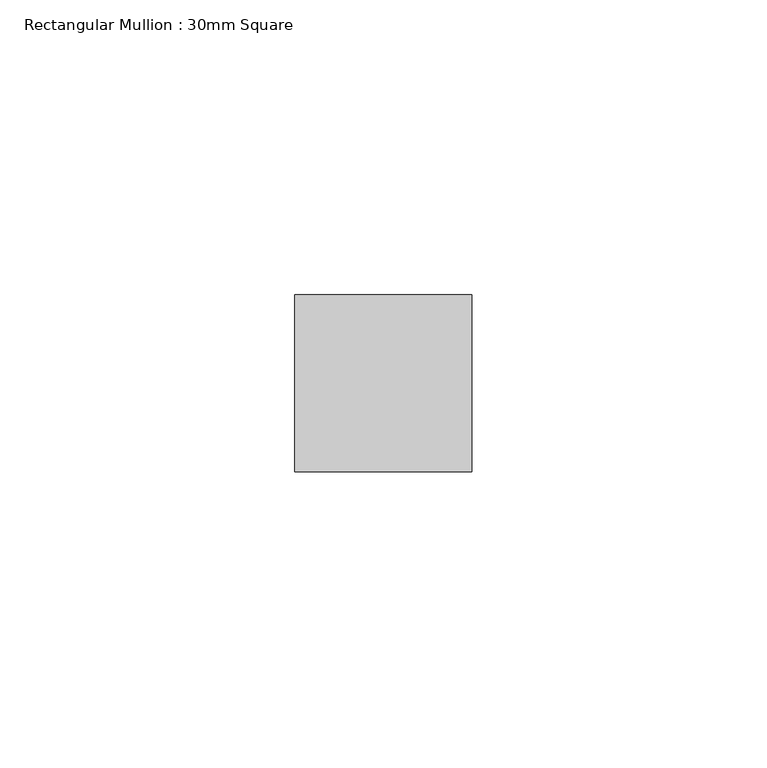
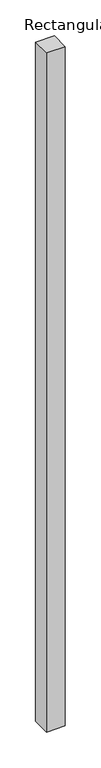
"""IFC4 building model written with IfcOpenShell, lengths in millimetres: member geometry, Rectangular Mullion : 30mm Square."""

import ifcopenshell
import ifcopenshell.guid

model = None  # the IFC model being written
_history = None  # IfcOwnerHistory: only IFC2X3 demands one
_inside = {}  # id of a spatial element -> (the spatial element, [elements in it])
_under = {}  # id of a project, library or spatial element -> (it, [spatial elements below it])
_declared = {}  # id of a project -> (the project, [libraries it declares])
_typed = {}  # id of a type object -> (the type object, [elements of that type])
_made_of = {}  # id of a material, layer set ... -> (it, [elements and type objects made of it])


def new_model(schema):
    """Start an empty IFC model of exactly this schema.

    Asked for "IFC4X3", IfcOpenShell would pick the latest addendum, in which some entities
    have other attributes; the version numbers below select the first issue.
    IFC2X3 requires an IfcOwnerHistory on every rooted entity: one is made here for all.
    """
    global model, _history
    if schema == "IFC4X3":
        model = ifcopenshell.file(schema_version=(4, 3, 0, 0))
    else:
        model = ifcopenshell.file(schema=schema)
    _inside.clear()
    _under.clear()
    _declared.clear()
    _typed.clear()
    _made_of.clear()
    _history = None
    if model.schema == "IFC2X3":
        org = make("IfcOrganization", Name="unknown")
        user = make(
            "IfcPersonAndOrganization",
            ThePerson=make("IfcPerson", FamilyName="unknown"),
            TheOrganization=org,
        )
        app = make(
            "IfcApplication",
            ApplicationDeveloper=org,
            Version="unknown",
            ApplicationFullName="unknown",
            ApplicationIdentifier="unknown",
        )
        _history = make(
            "IfcOwnerHistory",
            OwningUser=user,
            OwningApplication=app,
            ChangeAction="ADDED",
            CreationDate=0,
        )
    return model


def make(cls, **values):
    """One entity of the class cls with the attributes given. An attribute that is None is left unset."""
    return model.create_entity(
        cls, **{name: value for name, value in values.items() if value is not None}
    )


def rooted(cls, **values):
    """An entity with a GlobalId (a new one), such as an element, a storey or a relation."""
    return make(cls, GlobalId=ifcopenshell.guid.new(), OwnerHistory=_history, **values)


def si_unit(unit_type, name, prefix=None):
    """IfcSIUnit, for example si_unit("LENGTHUNIT", "METRE", prefix="MILLI")."""
    return make("IfcSIUnit", UnitType=unit_type, Prefix=prefix, Name=name)


def assignment(units):
    """IfcUnitAssignment: the units of a project."""
    return None if units is None else make("IfcUnitAssignment", Units=units)


def point(xyz):
    """IfcCartesianPoint."""
    return None if xyz is None else make("IfcCartesianPoint", Coordinates=xyz)


def direction(xyz):
    """IfcDirection."""
    return None if xyz is None else make("IfcDirection", DirectionRatios=xyz)


def frame(location, z_axis=None, x_axis=None):
    """IfcAxis2Placement3D, a coordinate frame: its origin and axes. An axis left out is left unset."""
    return make(
        "IfcAxis2Placement3D",
        Location=point(location),
        Axis=direction(z_axis),
        RefDirection=direction(x_axis),
    )


def origin():
    """The frame at (0, 0, 0) with its axes left unset."""
    return frame((0.0, 0.0, 0.0))


def place(relative_to, where):
    """IfcLocalPlacement: puts the frame where relative to a parent placement (None: the world)."""
    return make(
        "IfcLocalPlacement", PlacementRelTo=relative_to, RelativePlacement=where
    )


def context(
    kind, dimensions, precision=None, world=None, true_north=None, identifier=None
):
    """IfcGeometricRepresentationContext, for example the 3D "Model" context."""
    return make(
        "IfcGeometricRepresentationContext",
        ContextIdentifier=identifier,
        ContextType=kind,
        CoordinateSpaceDimension=dimensions,
        Precision=precision,
        WorldCoordinateSystem=world,
        TrueNorth=true_north,
    )


def project(units=None, contexts=None):
    """IfcProject with its units and contexts."""
    return rooted(
        "IfcProject",
        Name="project",
        RepresentationContexts=contexts,
        UnitsInContext=assignment(units),
    )


def spatial(cls, under=None, at=None, **own):
    """A site, building, storey or space (cls), placed at a placement, below another one or the project."""
    s = rooted(cls, ObjectPlacement=at, **own)
    if under is not None:
        _under.setdefault(under.id(), (under, []))[1].append(s)
    return s


def polyline(points):
    """IfcPolyline through the points."""
    return make("IfcPolyline", Points=[point(p) for p in points])


def outline(outer, holes=None, kind="AREA"):
    """IfcArbitraryClosedProfileDef: a profile drawn as a closed curve; with holes, ...WithVoids."""
    if holes is None:
        return make("IfcArbitraryClosedProfileDef", ProfileType=kind, OuterCurve=outer)
    return make(
        "IfcArbitraryProfileDefWithVoids",
        ProfileType=kind,
        OuterCurve=outer,
        InnerCurves=holes,
    )


def extrude(swept, where, along, depth):
    """IfcExtrudedAreaSolid: the profile swept, set in the frame where, extruded along a direction by depth."""
    return make(
        "IfcExtrudedAreaSolid",
        SweptArea=swept,
        Position=where,
        ExtrudedDirection=direction(along),
        Depth=depth,
    )


def shape(context_of_items, identifier, shape_type, items):
    """IfcShapeRepresentation: the items that make up one representation, for example the "Body"."""
    return make(
        "IfcShapeRepresentation",
        ContextOfItems=context_of_items,
        RepresentationIdentifier=identifier,
        RepresentationType=shape_type,
        Items=items,
    )


def source(mapping_origin, context_of_items, identifier, shape_type, items):
    """IfcRepresentationMap: a shape defined once, which mapped items show again and again."""
    return make(
        "IfcRepresentationMap",
        MappingOrigin=mapping_origin,
        MappedRepresentation=shape(context_of_items, identifier, shape_type, items),
    )


def transform(
    local_origin,
    x_axis=None,
    y_axis=None,
    z_axis=None,
    scale=None,
    scale2=None,
    scale3=None,
    uniform=True,
):
    """IfcCartesianTransformationOperator3D, or its non-uniform kind. x_axis, y_axis, z_axis: its Axis1, 2, 3."""
    if uniform:
        return make(
            "IfcCartesianTransformationOperator3D",
            Axis1=direction(x_axis),
            Axis2=direction(y_axis),
            LocalOrigin=point(local_origin),
            Scale=scale,
            Axis3=direction(z_axis),
        )
    return make(
        "IfcCartesianTransformationOperator3DnonUniform",
        Axis1=direction(x_axis),
        Axis2=direction(y_axis),
        LocalOrigin=point(local_origin),
        Scale=scale,
        Axis3=direction(z_axis),
        Scale2=scale2,
        Scale3=scale3,
    )


def mapped(mapping_source, mapping_target):
    """IfcMappedItem: shows the shape of a source again, moved by a transform."""
    return make(
        "IfcMappedItem", MappingSource=mapping_source, MappingTarget=mapping_target
    )


def made_of(thing, what):
    """Note that an element or type object is made of a material, layer set ...; save() writes the relation."""
    if what is not None:
        _made_of.setdefault(what.id(), (what, []))[1].append(thing)
    return thing


def element(
    cls,
    number,
    at=None,
    inside=None,
    cuts=None,
    type_object=None,
    material=None,
    context=None,
    identifier="Body",
    shape_type=None,
    held_by="IfcProductDefinitionShape",
    body=None,
    shapes=None,
    **own,
):
    """One element of the class cls, such as IfcWall. Its Tag is "e" and its number.

    at: its placement. inside: the storey or other place that contains it. cuts: it is an
    opening in that element (IfcRelVoidsElement). A single representation is given by context,
    identifier, shape_type and body (its items); several are given by shapes. held_by: the class
    of the entity that holds the representations. save() writes the other relations.
    """
    e = rooted(cls, Tag="e%d" % number, ObjectPlacement=at, **own)
    if body is not None:
        shapes = [shape(context, identifier, shape_type, body)]
    if shapes is not None:
        e.Representation = make(held_by, Representations=shapes)
    if inside is not None:
        _inside.setdefault(inside.id(), (inside, []))[1].append(e)
    if cuts is not None:
        rooted(
            "IfcRelVoidsElement", RelatingBuildingElement=cuts, RelatedOpeningElement=e
        )
    if type_object is not None:
        _typed.setdefault(type_object.id(), (type_object, []))[1].append(e)
    return made_of(e, material)


def aggregate(whole, parts):
    """IfcRelAggregates: a whole, such as a stair, and the parts it consists of."""
    return rooted("IfcRelAggregates", RelatingObject=whole, RelatedObjects=parts)


def save(model, path):
    """Write the relations noted so far, then the file.

    IfcRelAggregates (storeys below a building ...), IfcRelContainedInSpatialStructure (elements
    in a storey), IfcRelDefinesByType, IfcRelAssociatesMaterial and IfcRelDeclares: one each for
    every whole, place, type object, material and project.
    """
    for whole, parts in _under.values():
        aggregate(whole, parts)
    for where, things in _inside.values():
        rooted(
            "IfcRelContainedInSpatialStructure",
            RelatedElements=things,
            RelatingStructure=where,
        )
    for kind, things in _typed.values():
        rooted("IfcRelDefinesByType", RelatedObjects=things, RelatingType=kind)
    for what, things in _made_of.values():
        rooted("IfcRelAssociatesMaterial", RelatedObjects=things, RelatingMaterial=what)
    for by, libraries in _declared.values():
        rooted("IfcRelDeclares", RelatingContext=by, RelatedDefinitions=libraries)
    model.write(path)


def rectangular_mullion_30mm_square_7dce82d5(model_context):
    return source(origin(), model_context, "Body", "SweptSolid", [
        extrude(outline(polyline([(0.0, 15.0), (0.0, -15.0), (-30.0, -15.0), (-30.0, 15.0), (0.0, 15.0)])), frame((0.0, 0.0, -1155.0), z_axis=(0.0, 0.0, 1.0), x_axis=(1.0, 0.0, 0.0)), (0.0, 0.0, 1.0), 1155.0),
    ])


if __name__ == "__main__":
    model = new_model("IFC4")
    model_context = context("Model", 3, world=origin())
    ifc_project = project(units=[si_unit("LENGTHUNIT", "METRE", prefix="MILLI")], contexts=[model_context])
    site = spatial("IfcSite", under=ifc_project)
    building = spatial("IfcBuilding", under=site)
    placement = place(None, origin())
    rectangular_mullion_30mm_square_shape = rectangular_mullion_30mm_square_7dce82d5(model_context)
    element("IfcMember", 1, ObjectType="Rectangular Mullion : 30mm Square", at=placement, inside=building, context=model_context, shape_type="MappedRepresentation", body=[
        mapped(rectangular_mullion_30mm_square_shape, transform((0.0, 0.0, 0.0), x_axis=(1.0, 0.0, 0.0), y_axis=(0.0, 1.0, 0.0), z_axis=(0.0, 0.0, 1.0))),
    ])
    save(model, "model.ifc")
